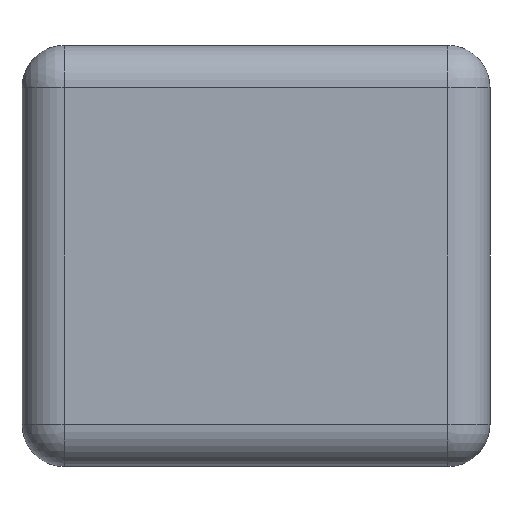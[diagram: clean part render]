
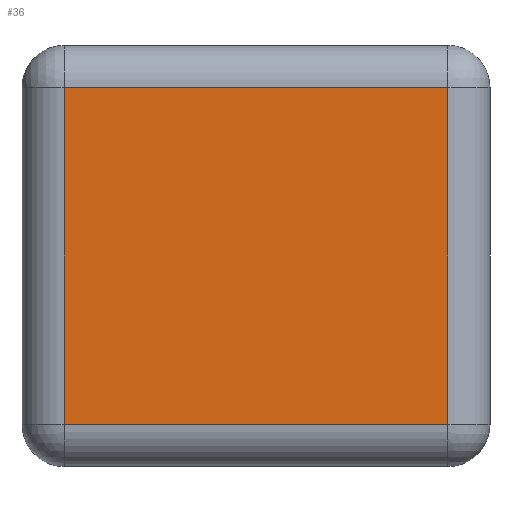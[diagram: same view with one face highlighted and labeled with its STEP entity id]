
A CAD part, left-side view. The second image highlights one B-rep face of the part: STEP entity #36.
In plain terms, the highlighted planar face has unit normal (-1, 0, 0).
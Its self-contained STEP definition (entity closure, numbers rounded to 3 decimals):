
#36 = ADVANCED_FACE('',(#37),#51,.F.);
#37 = FACE_BOUND('',#38,.F.);
#38 = EDGE_LOOP('',(#39,#74,#102,#130));
#39 = ORIENTED_EDGE('',*,*,#40,.F.);
#40 = EDGE_CURVE('',#41,#43,#45,.T.);
#41 = VERTEX_POINT('',#42);
#42 = CARTESIAN_POINT('',(-2.85,-2.05,0.45));
#43 = VERTEX_POINT('',#44);
#44 = CARTESIAN_POINT('',(-2.85,-2.05,4.05));
#45 = SURFACE_CURVE('',#46,(#50,#62),.PCURVE_S1.);
#46 = LINE('',#47,#48);
#47 = CARTESIAN_POINT('',(-2.85,-2.05,0.));
#48 = VECTOR('',#49,1.);
#49 = DIRECTION('',(0.,0.,1.));
#50 = PCURVE('',#51,#56);
#51 = PLANE('',#52);
#52 = AXIS2_PLACEMENT_3D('',#53,#54,#55);
#53 = CARTESIAN_POINT('',(-2.85,-2.5,0.));
#54 = DIRECTION('',(1.,0.,0.));
#55 = DIRECTION('',(0.,0.,1.));
#56 = DEFINITIONAL_REPRESENTATION('',(#57),#61);
#57 = LINE('',#58,#59);
#58 = CARTESIAN_POINT('',(0.,-0.45));
#59 = VECTOR('',#60,1.);
#60 = DIRECTION('',(1.,0.));
#61 = ( GEOMETRIC_REPRESENTATION_CONTEXT(2) 
PARAMETRIC_REPRESENTATION_CONTEXT() REPRESENTATION_CONTEXT('2D SPACE',''
  ) );
#62 = PCURVE('',#63,#68);
#63 = CYLINDRICAL_SURFACE('',#64,0.45);
#64 = AXIS2_PLACEMENT_3D('',#65,#66,#67);
#65 = CARTESIAN_POINT('',(-2.4,-2.05,0.));
#66 = DIRECTION('',(0.,0.,1.));
#67 = DIRECTION('',(-1.,-0.,0.));
#68 = DEFINITIONAL_REPRESENTATION('',(#69),#73);
#69 = LINE('',#70,#71);
#70 = CARTESIAN_POINT('',(0.,0.));
#71 = VECTOR('',#72,1.);
#72 = DIRECTION('',(0.,1.));
#73 = ( GEOMETRIC_REPRESENTATION_CONTEXT(2) 
PARAMETRIC_REPRESENTATION_CONTEXT() REPRESENTATION_CONTEXT('2D SPACE',''
  ) );
#74 = ORIENTED_EDGE('',*,*,#75,.T.);
#75 = EDGE_CURVE('',#41,#76,#78,.T.);
#76 = VERTEX_POINT('',#77);
#77 = CARTESIAN_POINT('',(-2.85,2.05,0.45));
#78 = SURFACE_CURVE('',#79,(#83,#90),.PCURVE_S1.);
#79 = LINE('',#80,#81);
#80 = CARTESIAN_POINT('',(-2.85,-2.5,0.45));
#81 = VECTOR('',#82,1.);
#82 = DIRECTION('',(0.,1.,0.));
#83 = PCURVE('',#51,#84);
#84 = DEFINITIONAL_REPRESENTATION('',(#85),#89);
#85 = LINE('',#86,#87);
#86 = CARTESIAN_POINT('',(0.45,0.));
#87 = VECTOR('',#88,1.);
#88 = DIRECTION('',(0.,-1.));
#89 = ( GEOMETRIC_REPRESENTATION_CONTEXT(2) 
PARAMETRIC_REPRESENTATION_CONTEXT() REPRESENTATION_CONTEXT('2D SPACE',''
  ) );
#90 = PCURVE('',#91,#96);
#91 = CYLINDRICAL_SURFACE('',#92,0.45);
#92 = AXIS2_PLACEMENT_3D('',#93,#94,#95);
#93 = CARTESIAN_POINT('',(-2.4,-2.5,0.45));
#94 = DIRECTION('',(0.,1.,0.));
#95 = DIRECTION('',(-1.,0.,0.));
#96 = DEFINITIONAL_REPRESENTATION('',(#97),#101);
#97 = LINE('',#98,#99);
#98 = CARTESIAN_POINT('',(-0.,0.));
#99 = VECTOR('',#100,1.);
#100 = DIRECTION('',(-0.,1.));
#101 = ( GEOMETRIC_REPRESENTATION_CONTEXT(2) 
PARAMETRIC_REPRESENTATION_CONTEXT() REPRESENTATION_CONTEXT('2D SPACE',''
  ) );
#102 = ORIENTED_EDGE('',*,*,#103,.T.);
#103 = EDGE_CURVE('',#76,#104,#106,.T.);
#104 = VERTEX_POINT('',#105);
#105 = CARTESIAN_POINT('',(-2.85,2.05,4.05));
#106 = SURFACE_CURVE('',#107,(#111,#118),.PCURVE_S1.);
#107 = LINE('',#108,#109);
#108 = CARTESIAN_POINT('',(-2.85,2.05,0.));
#109 = VECTOR('',#110,1.);
#110 = DIRECTION('',(0.,0.,1.));
#111 = PCURVE('',#51,#112);
#112 = DEFINITIONAL_REPRESENTATION('',(#113),#117);
#113 = LINE('',#114,#115);
#114 = CARTESIAN_POINT('',(0.,-4.55));
#115 = VECTOR('',#116,1.);
#116 = DIRECTION('',(1.,0.));
#117 = ( GEOMETRIC_REPRESENTATION_CONTEXT(2) 
PARAMETRIC_REPRESENTATION_CONTEXT() REPRESENTATION_CONTEXT('2D SPACE',''
  ) );
#118 = PCURVE('',#119,#124);
#119 = CYLINDRICAL_SURFACE('',#120,0.45);
#120 = AXIS2_PLACEMENT_3D('',#121,#122,#123);
#121 = CARTESIAN_POINT('',(-2.4,2.05,0.));
#122 = DIRECTION('',(0.,0.,1.));
#123 = DIRECTION('',(-1.,-0.,0.));
#124 = DEFINITIONAL_REPRESENTATION('',(#125),#129);
#125 = LINE('',#126,#127);
#126 = CARTESIAN_POINT('',(-0.,0.));
#127 = VECTOR('',#128,1.);
#128 = DIRECTION('',(-0.,1.));
#129 = ( GEOMETRIC_REPRESENTATION_CONTEXT(2) 
PARAMETRIC_REPRESENTATION_CONTEXT() REPRESENTATION_CONTEXT('2D SPACE',''
  ) );
#130 = ORIENTED_EDGE('',*,*,#131,.F.);
#131 = EDGE_CURVE('',#43,#104,#132,.T.);
#132 = SURFACE_CURVE('',#133,(#137,#144),.PCURVE_S1.);
#133 = LINE('',#134,#135);
#134 = CARTESIAN_POINT('',(-2.85,-2.5,4.05));
#135 = VECTOR('',#136,1.);
#136 = DIRECTION('',(0.,1.,0.));
#137 = PCURVE('',#51,#138);
#138 = DEFINITIONAL_REPRESENTATION('',(#139),#143);
#139 = LINE('',#140,#141);
#140 = CARTESIAN_POINT('',(4.05,0.));
#141 = VECTOR('',#142,1.);
#142 = DIRECTION('',(0.,-1.));
#143 = ( GEOMETRIC_REPRESENTATION_CONTEXT(2) 
PARAMETRIC_REPRESENTATION_CONTEXT() REPRESENTATION_CONTEXT('2D SPACE',''
  ) );
#144 = PCURVE('',#145,#150);
#145 = CYLINDRICAL_SURFACE('',#146,0.45);
#146 = AXIS2_PLACEMENT_3D('',#147,#148,#149);
#147 = CARTESIAN_POINT('',(-2.4,-2.5,4.05));
#148 = DIRECTION('',(0.,1.,0.));
#149 = DIRECTION('',(-1.,0.,0.));
#150 = DEFINITIONAL_REPRESENTATION('',(#151),#155);
#151 = LINE('',#152,#153);
#152 = CARTESIAN_POINT('',(0.,0.));
#153 = VECTOR('',#154,1.);
#154 = DIRECTION('',(0.,1.));
#155 = ( GEOMETRIC_REPRESENTATION_CONTEXT(2) 
PARAMETRIC_REPRESENTATION_CONTEXT() REPRESENTATION_CONTEXT('2D SPACE',''
  ) );
